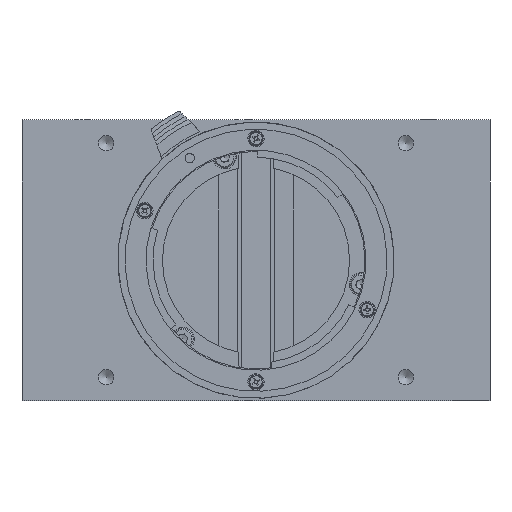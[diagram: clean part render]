
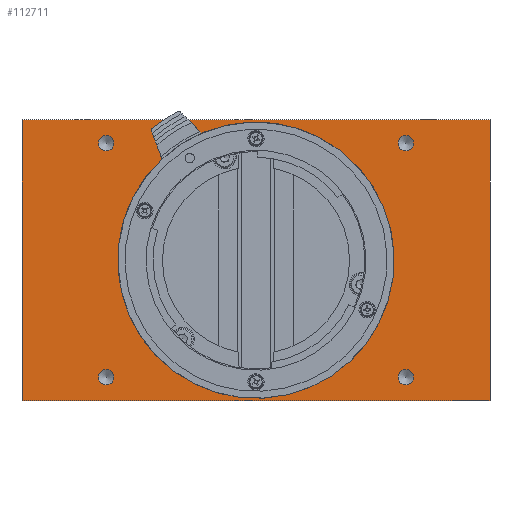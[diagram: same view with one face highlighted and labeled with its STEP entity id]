
A CAD part, left-side view. The second image highlights one B-rep face of the part: STEP entity #112711.
In plain terms, the highlighted planar face has unit normal (-1, 0, 0).
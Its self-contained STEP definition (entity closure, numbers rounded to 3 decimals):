
#2111 = ORIENTED_EDGE ( 'NONE', *, *, #103207, .F. ) ;
#4670 = ORIENTED_EDGE ( 'NONE', *, *, #36925, .F. ) ;
#7884 = AXIS2_PLACEMENT_3D ( 'NONE', #59879, #159367, #22088 ) ;
#11712 = DIRECTION ( 'NONE',  ( 0., 0., -1. ) ) ;
#11991 = CIRCLE ( 'NONE', #124354, 1.65 ) ;
#16424 = FACE_BOUND ( 'NONE', #86838, .T. ) ;
#16843 = CARTESIAN_POINT ( 'NONE',  ( 0., -50., -30. ) ) ;
#19187 = EDGE_CURVE ( 'NONE', #157678, #63871, #105718, .T. ) ;
#21590 = ORIENTED_EDGE ( 'NONE', *, *, #155154, .F. ) ;
#22088 = DIRECTION ( 'NONE',  ( 0., 0., 1. ) ) ;
#23693 = VERTEX_POINT ( 'NONE', #152286 ) ;
#24836 = EDGE_CURVE ( 'NONE', #116150, #84110, #51455, .T. ) ;
#26103 = FACE_BOUND ( 'NONE', #96922, .T. ) ;
#30843 = CIRCLE ( 'NONE', #100703, 1.65 ) ;
#33202 = CARTESIAN_POINT ( 'NONE',  ( 0., 50., 30. ) ) ;
#34595 = LINE ( 'NONE', #33202, #136299 ) ;
#34616 = PLANE ( 'NONE',  #99243 ) ;
#35181 = VERTEX_POINT ( 'NONE', #83320 ) ;
#35918 = FACE_BOUND ( 'NONE', #151264, .T. ) ;
#36251 = CARTESIAN_POINT ( 'NONE',  ( 0., 50., 30. ) ) ;
#36925 = EDGE_CURVE ( 'NONE', #63871, #116150, #34595, .T. ) ;
#39996 = VECTOR ( 'NONE', #48784, 1000. ) ;
#43981 = CARTESIAN_POINT ( 'NONE',  ( 0., 0., 0. ) ) ;
#46161 = DIRECTION ( 'NONE',  ( -1., 0., 0. ) ) ;
#47543 = EDGE_LOOP ( 'NONE', ( #4670, #55717, #92773, #123489 ) ) ;
#48784 = DIRECTION ( 'NONE',  ( 0., 1., 0. ) ) ;
#50124 = DIRECTION ( 'NONE',  ( -1., 0., 0. ) ) ;
#51455 = LINE ( 'NONE', #112201, #90484 ) ;
#51807 = CARTESIAN_POINT ( 'NONE',  ( 0., -50., 30. ) ) ;
#54728 = DIRECTION ( 'NONE',  ( -1., 0., 0. ) ) ;
#55717 = ORIENTED_EDGE ( 'NONE', *, *, #19187, .F. ) ;
#56547 = DIRECTION ( 'NONE',  ( 1., 0., 0. ) ) ;
#56637 = CARTESIAN_POINT ( 'NONE',  ( 0., 32., 26.65 ) ) ;
#59229 = CARTESIAN_POINT ( 'NONE',  ( 0., 0., 0. ) ) ;
#59879 = CARTESIAN_POINT ( 'NONE',  ( 0., -32., -25. ) ) ;
#62657 = VERTEX_POINT ( 'NONE', #95948 ) ;
#62807 = VERTEX_POINT ( 'NONE', #103593 ) ;
#63078 = DIRECTION ( 'NONE',  ( -1., 0., 0. ) ) ;
#63871 = VERTEX_POINT ( 'NONE', #82009 ) ;
#65241 = CIRCLE ( 'NONE', #144846, 27.8 ) ;
#65721 = AXIS2_PLACEMENT_3D ( 'NONE', #154175, #54728, #80371 ) ;
#68850 = ORIENTED_EDGE ( 'NONE', *, *, #71156, .F. ) ;
#71156 = EDGE_CURVE ( 'NONE', #23693, #23693, #117221, .T. ) ;
#71656 = EDGE_CURVE ( 'NONE', #62807, #62807, #30843, .T. ) ;
#71747 = DIRECTION ( 'NONE',  ( 0., 0., 1. ) ) ;
#75079 = CARTESIAN_POINT ( 'NONE',  ( 0., 32., -25. ) ) ;
#77764 = CARTESIAN_POINT ( 'NONE',  ( 0., 50., -30. ) ) ;
#80371 = DIRECTION ( 'NONE',  ( 0., 0., 1. ) ) ;
#80915 = FACE_BOUND ( 'NONE', #101296, .T. ) ;
#82009 = CARTESIAN_POINT ( 'NONE',  ( 0., 50., 30. ) ) ;
#82933 = FACE_OUTER_BOUND ( 'NONE', #47543, .T. ) ;
#83320 = CARTESIAN_POINT ( 'NONE',  ( 0., -32., -23.35 ) ) ;
#84110 = VERTEX_POINT ( 'NONE', #16843 ) ;
#86140 = ORIENTED_EDGE ( 'NONE', *, *, #152584, .F. ) ;
#86838 = EDGE_LOOP ( 'NONE', ( #21590 ) ) ;
#90484 = VECTOR ( 'NONE', #11712, 1000. ) ;
#92109 = DIRECTION ( 'NONE',  ( 0., 0., 1. ) ) ;
#92773 = ORIENTED_EDGE ( 'NONE', *, *, #116050, .F. ) ;
#95948 = CARTESIAN_POINT ( 'NONE',  ( 0., 0., 27.8 ) ) ;
#96922 = EDGE_LOOP ( 'NONE', ( #100141 ) ) ;
#99243 = AXIS2_PLACEMENT_3D ( 'NONE', #43981, #56547, #143427 ) ;
#99631 = DIRECTION ( 'NONE',  ( 0., 0., 1. ) ) ;
#99967 = VECTOR ( 'NONE', #99631, 1000. ) ;
#100141 = ORIENTED_EDGE ( 'NONE', *, *, #71656, .F. ) ;
#100703 = AXIS2_PLACEMENT_3D ( 'NONE', #75079, #63078, #113244 ) ;
#101296 = EDGE_LOOP ( 'NONE', ( #68850 ) ) ;
#101813 = VERTEX_POINT ( 'NONE', #56637 ) ;
#103207 = EDGE_CURVE ( 'NONE', #101813, #101813, #11991, .T. ) ;
#103593 = CARTESIAN_POINT ( 'NONE',  ( 0., 32., -23.35 ) ) ;
#105718 = LINE ( 'NONE', #36251, #99967 ) ;
#111830 = CIRCLE ( 'NONE', #7884, 1.65 ) ;
#112201 = CARTESIAN_POINT ( 'NONE',  ( 0., -50., 30. ) ) ;
#112711 = ADVANCED_FACE ( 'NONE', ( #80915, #145595, #16424, #26103, #35918, #82933 ), #34616, .F. ) ;
#113244 = DIRECTION ( 'NONE',  ( 0., 0., 1. ) ) ;
#116050 = EDGE_CURVE ( 'NONE', #84110, #157678, #139758, .T. ) ;
#116150 = VERTEX_POINT ( 'NONE', #51807 ) ;
#117221 = CIRCLE ( 'NONE', #65721, 1.65 ) ;
#123489 = ORIENTED_EDGE ( 'NONE', *, *, #24836, .F. ) ;
#124354 = AXIS2_PLACEMENT_3D ( 'NONE', #124964, #50124, #92109 ) ;
#124964 = CARTESIAN_POINT ( 'NONE',  ( 0., 32., 25. ) ) ;
#136299 = VECTOR ( 'NONE', #148498, 1000. ) ;
#139758 = LINE ( 'NONE', #146643, #39996 ) ;
#142688 = EDGE_LOOP ( 'NONE', ( #2111 ) ) ;
#143427 = DIRECTION ( 'NONE',  ( 0., 0., -1. ) ) ;
#144846 = AXIS2_PLACEMENT_3D ( 'NONE', #59229, #46161, #71747 ) ;
#145595 = FACE_BOUND ( 'NONE', #142688, .T. ) ;
#146643 = CARTESIAN_POINT ( 'NONE',  ( 0., 50., -30. ) ) ;
#148498 = DIRECTION ( 'NONE',  ( 0., -1., 0. ) ) ;
#151264 = EDGE_LOOP ( 'NONE', ( #86140 ) ) ;
#152286 = CARTESIAN_POINT ( 'NONE',  ( 0., -32., 26.65 ) ) ;
#152584 = EDGE_CURVE ( 'NONE', #62657, #62657, #65241, .T. ) ;
#154175 = CARTESIAN_POINT ( 'NONE',  ( 0., -32., 25. ) ) ;
#155154 = EDGE_CURVE ( 'NONE', #35181, #35181, #111830, .T. ) ;
#157678 = VERTEX_POINT ( 'NONE', #77764 ) ;
#159367 = DIRECTION ( 'NONE',  ( -1., 0., 0. ) ) ;
